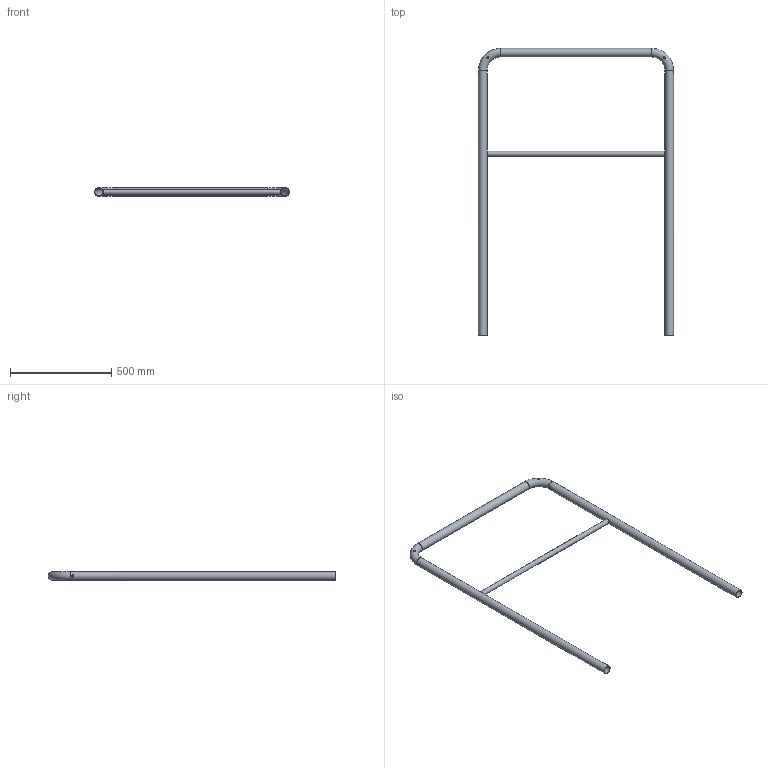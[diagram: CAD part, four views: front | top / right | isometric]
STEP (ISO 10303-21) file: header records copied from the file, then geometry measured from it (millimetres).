
FILE_DESCRIPTION((''),'2;1');
FILE_NAME('S:\Användarkataloger\AndreasA\Mina Inventor filer\Räcken\STEP\modul_ind_1000-1400.stp','2010-09-07T13:10:43',('AndreasA'),(''),'Autodesk Inventor 2011','Autodesk Inventor 2011','');
FILE_SCHEMA(('AUTOMOTIVE_DESIGN { 1 0 10303 214 1 1 1 1 }'));
Length unit declared in the file: millimetre
Products named in the file (3): modul_ind_1000-1400; handledare_modul_1000-1400; mellanliggare_modul_1000
Assembly tree (2 placements, depth 2):
  modul_ind_1000-1400
    handledare_modul_1000-1400
    mellanliggare_modul_1000
Bounding box: 965.4 x 1421.2 x 42.4 mm (x, y, z)
Volume: 1052058.3 mm3; surface area: 1053392.1 mm2
Topology: 2 solids, 2 shells, 24 faces, 64 edges, 40 vertices
Faces by surface type: cylinder 16, torus 4, plane 4
Full cylindrical faces by diameter (mm): 10 x4, 11 x4, 21 x1, 25 x1, 38.4 x3, 42.4 x3
Entity records: 1354 total; most frequent: CARTESIAN_POINT 809, DIRECTION 90, ORIENTED_EDGE 64, EDGE_LOOP 64, AXIS2_PLACEMENT_3D 45, FACE_BOUND 40, VERTEX_POINT 32, EDGE_CURVE 32
